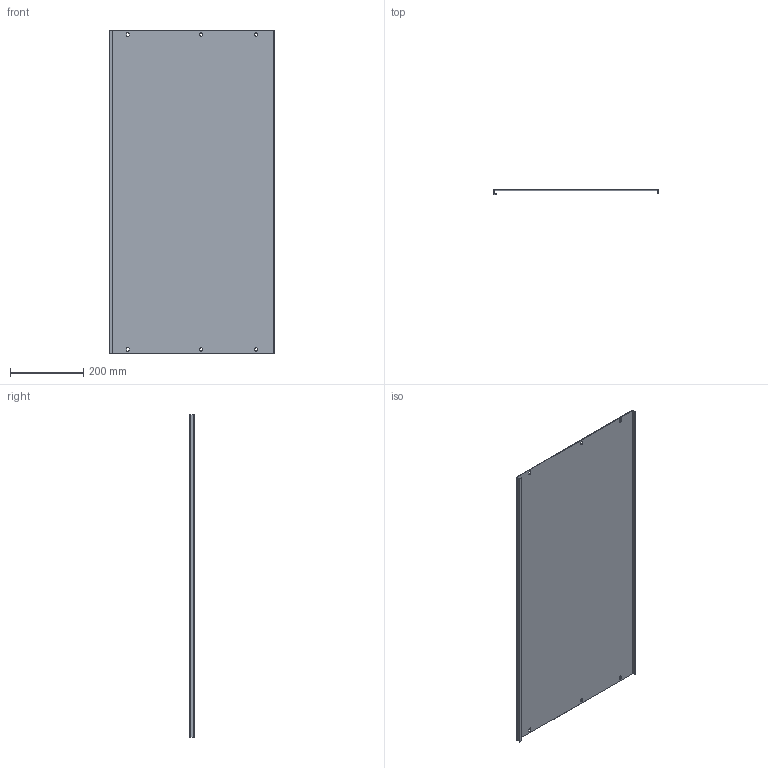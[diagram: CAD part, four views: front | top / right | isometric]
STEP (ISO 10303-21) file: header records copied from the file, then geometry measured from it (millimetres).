
FILE_DESCRIPTION (( 'STEP AP214' ), '1' );
FILE_NAME ('FO-00-PVS-045-100 Ïëàñòðîí ãëóõîé âíóòðåííèé 450õ1000.STEP', '2025-08-26T08:47:59', ( '' ), ( '' ), 'SwSTEP 2.0', 'SolidWorks 2023', '' );
FILE_SCHEMA (( 'AUTOMOTIVE_DESIGN' ));
Length unit declared in the file: millimetre
Products named in the file (1): FO-00-PVS-045-100 Пластрон глухой внутренний 450х1000
Bounding box: 448 x 12.5 x 879 mm (x, y, z)
Volume: 624391.6 mm3; surface area: 836845.1 mm2
Topology: 1 solids, 1 shells, 52 faces, 150 edges, 100 vertices
Faces by surface type: plane 34, cylinder 18
Entity records: 1757 total; most frequent: CARTESIAN_POINT 303, ORIENTED_EDGE 300, DIRECTION 292, EDGE_CURVE 150, VECTOR 114, LINE 114, VERTEX_POINT 100, AXIS2_PLACEMENT_3D 89
